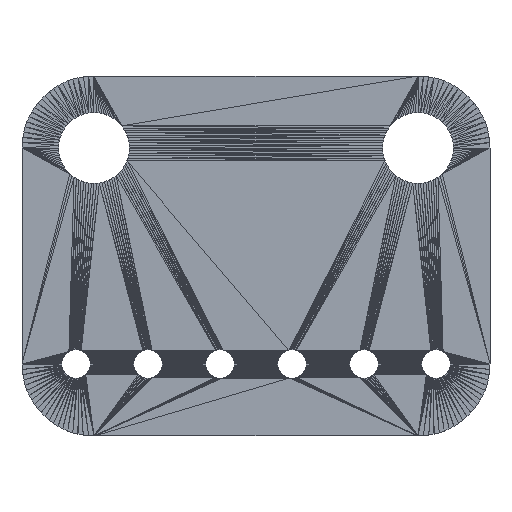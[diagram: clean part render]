
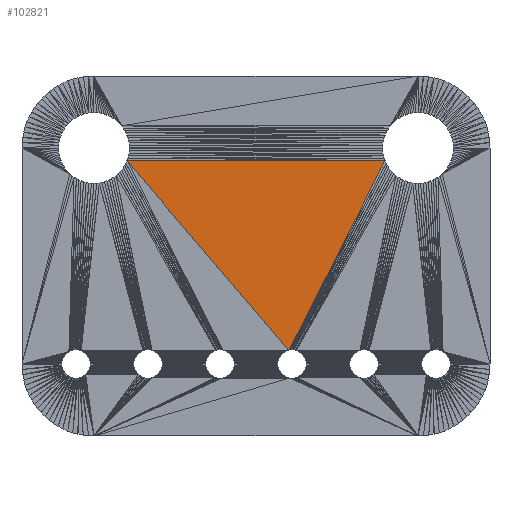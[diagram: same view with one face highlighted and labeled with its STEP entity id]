
A CAD part, front view. The second image highlights one B-rep face of the part: STEP entity #102821.
In plain terms, the highlighted planar face has unit normal (0, -1, 0) as drawn and (0, 0, 1) by its records, which use the part's own axes.
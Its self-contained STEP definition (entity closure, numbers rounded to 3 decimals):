
#41451 = VERTEX_POINT('',#41452);
#41452 = CARTESIAN_POINT('',(1.159,-3.323,
    0.8));
#77523 = VERTEX_POINT('',#77524);
#77524 = CARTESIAN_POINT('',(4.551,3.353,
    0.8));
#77538 = PLANE('',#77539);
#77539 = AXIS2_PLACEMENT_3D('',#77540,#77541,#77542);
#77540 = CARTESIAN_POINT('',(0.016,3.375,
    0.8));
#77541 = DIRECTION('',(0.,0.,1.));
#77542 = DIRECTION('',(1.,0.,-0.));
#77596 = PLANE('',#77597);
#77597 = AXIS2_PLACEMENT_3D('',#77598,#77599,#77600);
#77598 = CARTESIAN_POINT('',(2.875,0.015,
    0.8));
#77599 = DIRECTION('',(0.,0.,1.));
#77600 = DIRECTION('',(1.,0.,-0.));
#83007 = VERTEX_POINT('',#83008);
#83008 = CARTESIAN_POINT('',(-4.551,3.353,
    0.8));
#102583 = EDGE_CURVE('',#83007,#77523,#102584,.T.);
#102584 = SURFACE_CURVE('',#102585,(#102589,#102596),.PCURVE_S1.);
#102585 = LINE('',#102586,#102587);
#102586 = CARTESIAN_POINT('',(-4.551,3.353,
    0.8));
#102587 = VECTOR('',#102588,1.);
#102588 = DIRECTION('',(1.,0.,0.));
#102589 = PCURVE('',#77538,#102590);
#102590 = DEFINITIONAL_REPRESENTATION('',(#102591),#102595);
#102591 = LINE('',#102592,#102593);
#102592 = CARTESIAN_POINT('',(-4.567,-0.022));
#102593 = VECTOR('',#102594,1.);
#102594 = DIRECTION('',(1.,0.));
#102595 = ( GEOMETRIC_REPRESENTATION_CONTEXT(2) 
PARAMETRIC_REPRESENTATION_CONTEXT() REPRESENTATION_CONTEXT('2D SPACE',''
  ) );
#102596 = PCURVE('',#102597,#102602);
#102597 = PLANE('',#102598);
#102598 = AXIS2_PLACEMENT_3D('',#102599,#102600,#102601);
#102599 = CARTESIAN_POINT('',(0.255,1.213,
    0.8));
#102600 = DIRECTION('',(0.,0.,1.));
#102601 = DIRECTION('',(1.,0.,-0.));
#102602 = DEFINITIONAL_REPRESENTATION('',(#102603),#102607);
#102603 = LINE('',#102604,#102605);
#102604 = CARTESIAN_POINT('',(-4.807,2.141));
#102605 = VECTOR('',#102606,1.);
#102606 = DIRECTION('',(1.,0.));
#102607 = ( GEOMETRIC_REPRESENTATION_CONTEXT(2) 
PARAMETRIC_REPRESENTATION_CONTEXT() REPRESENTATION_CONTEXT('2D SPACE',''
  ) );
#102821 = ADVANCED_FACE('',(#102822),#102597,.T.);
#102822 = FACE_BOUND('',#102823,.T.);
#102823 = EDGE_LOOP('',(#102824,#102825,#102851));
#102824 = ORIENTED_EDGE('',*,*,#102583,.F.);
#102825 = ORIENTED_EDGE('',*,*,#102826,.T.);
#102826 = EDGE_CURVE('',#83007,#41451,#102827,.T.);
#102827 = SURFACE_CURVE('',#102828,(#102832,#102839),.PCURVE_S1.);
#102828 = LINE('',#102829,#102830);
#102829 = CARTESIAN_POINT('',(-4.551,3.353,
    0.8));
#102830 = VECTOR('',#102831,1.);
#102831 = DIRECTION('',(0.65,-0.76,0.));
#102832 = PCURVE('',#102597,#102833);
#102833 = DEFINITIONAL_REPRESENTATION('',(#102834),#102838);
#102834 = LINE('',#102835,#102836);
#102835 = CARTESIAN_POINT('',(-4.807,2.141));
#102836 = VECTOR('',#102837,1.);
#102837 = DIRECTION('',(0.65,-0.76));
#102838 = ( GEOMETRIC_REPRESENTATION_CONTEXT(2) 
PARAMETRIC_REPRESENTATION_CONTEXT() REPRESENTATION_CONTEXT('2D SPACE',''
  ) );
#102839 = PCURVE('',#102840,#102845);
#102840 = PLANE('',#102841);
#102841 = AXIS2_PLACEMENT_3D('',#102842,#102843,#102844);
#102842 = CARTESIAN_POINT('',(-1.952,-0.401,
    0.8));
#102843 = DIRECTION('',(0.,0.,1.));
#102844 = DIRECTION('',(1.,0.,-0.));
#102845 = DEFINITIONAL_REPRESENTATION('',(#102846),#102850);
#102846 = LINE('',#102847,#102848);
#102847 = CARTESIAN_POINT('',(-2.6,3.754));
#102848 = VECTOR('',#102849,1.);
#102849 = DIRECTION('',(0.65,-0.76));
#102850 = ( GEOMETRIC_REPRESENTATION_CONTEXT(2) 
PARAMETRIC_REPRESENTATION_CONTEXT() REPRESENTATION_CONTEXT('2D SPACE',''
  ) );
#102851 = ORIENTED_EDGE('',*,*,#102852,.T.);
#102852 = EDGE_CURVE('',#41451,#77523,#102853,.T.);
#102853 = SURFACE_CURVE('',#102854,(#102858,#102865),.PCURVE_S1.);
#102854 = LINE('',#102855,#102856);
#102855 = CARTESIAN_POINT('',(1.159,-3.323,
    0.8));
#102856 = VECTOR('',#102857,1.);
#102857 = DIRECTION('',(0.453,0.891,0.));
#102858 = PCURVE('',#102597,#102859);
#102859 = DEFINITIONAL_REPRESENTATION('',(#102860),#102864);
#102860 = LINE('',#102861,#102862);
#102861 = CARTESIAN_POINT('',(0.903,-4.535));
#102862 = VECTOR('',#102863,1.);
#102863 = DIRECTION('',(0.453,0.891));
#102864 = ( GEOMETRIC_REPRESENTATION_CONTEXT(2) 
PARAMETRIC_REPRESENTATION_CONTEXT() REPRESENTATION_CONTEXT('2D SPACE',''
  ) );
#102865 = PCURVE('',#77596,#102866);
#102866 = DEFINITIONAL_REPRESENTATION('',(#102867),#102871);
#102867 = LINE('',#102868,#102869);
#102868 = CARTESIAN_POINT('',(-1.716,-3.337));
#102869 = VECTOR('',#102870,1.);
#102870 = DIRECTION('',(0.453,0.891));
#102871 = ( GEOMETRIC_REPRESENTATION_CONTEXT(2) 
PARAMETRIC_REPRESENTATION_CONTEXT() REPRESENTATION_CONTEXT('2D SPACE',''
  ) );
